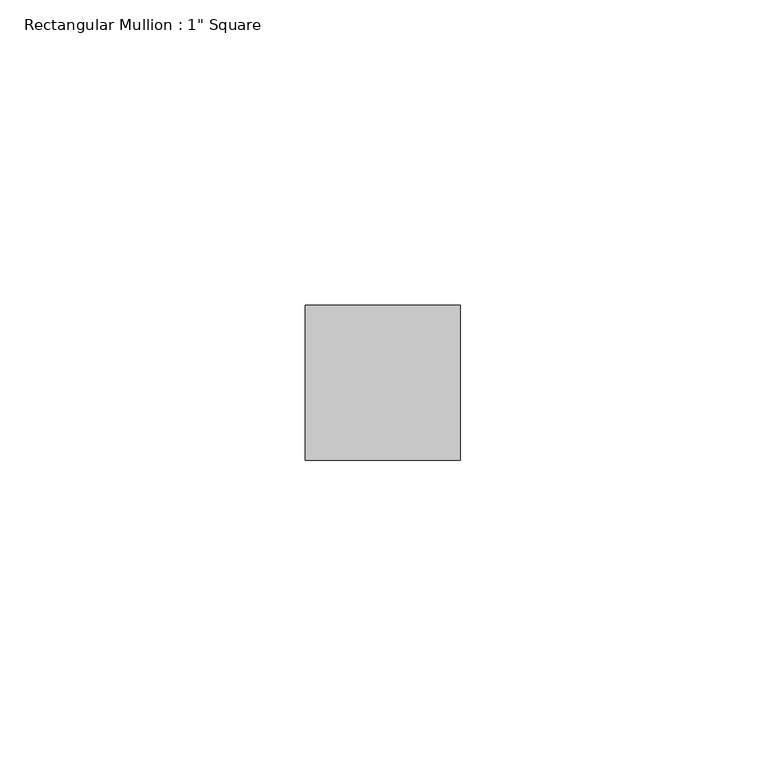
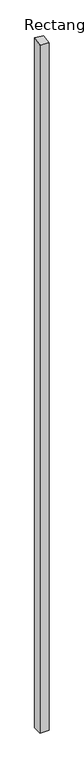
"""IFC4 building model written with IfcOpenShell, lengths in millimetres: member geometry."""

from ifc_helpers import new_model, si_unit, origin, place, context, project, spatial, faceted_brep, source, transform, mapped, element, save


def member_881e67eb(model_context):
    return source(origin(), model_context, "Body", "Brep", [
        faceted_brep([(12.7, 12.7, -2035.5247208), (12.7, -12.7, -2035.5247208), (-12.7, -12.7, -2035.5247208), (-12.7, 12.7, -2035.5247208), (-12.7, 12.7, 3.9383109), (12.7, 12.7, 1.8614515), (-12.7, -12.7, -1.8614515), (12.7, -12.7, -3.9383109)], [[[0, 1, 2, 3]], [[4, 5, 0, 3]], [[6, 4, 3, 2]], [[7, 6, 2, 1]], [[5, 7, 1, 0]], [[5, 4, 6, 7]]]),
    ])


if __name__ == "__main__":
    model = new_model("IFC4")
    model_context = context("Model", 3, world=origin())
    ifc_project = project(units=[si_unit("LENGTHUNIT", "METRE", prefix="MILLI")], contexts=[model_context])
    site = spatial("IfcSite", under=ifc_project)
    building = spatial("IfcBuilding", under=site)
    placement = place(None, origin())
    member_shape = member_881e67eb(model_context)
    element("IfcMember", 1, ObjectType="Rectangular Mullion : 1\" Square", at=placement, inside=building, context=model_context, shape_type="MappedRepresentation", body=[
        mapped(member_shape, transform((0.0, 0.0, 0.0), x_axis=(1.0, 0.0, 0.0), y_axis=(0.0, 1.0, 0.0), z_axis=(0.0, 0.0, 1.0))),
    ])
    save(model, "model.ifc")
